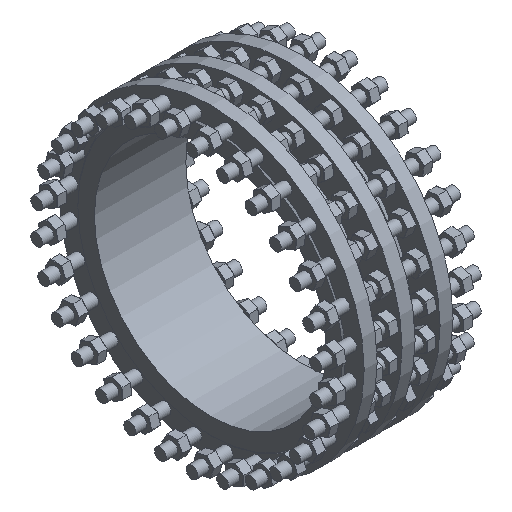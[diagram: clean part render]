
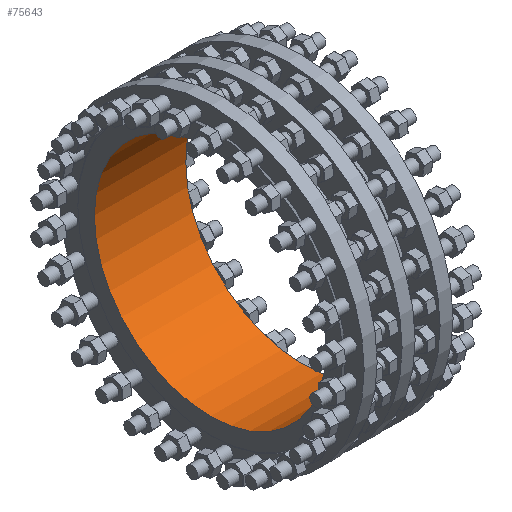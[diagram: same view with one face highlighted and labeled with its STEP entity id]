
A CAD part, isometric view. The second image highlights one B-rep face of the part: STEP entity #75643.
In plain terms, the highlighted cylindrical face has radius 450 mm (diameter 900 mm), a full revolution.
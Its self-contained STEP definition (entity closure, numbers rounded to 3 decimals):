
#364 = DIRECTION ( 'NONE',  ( -1., 0., 0. ) ) ;
#5213 = DIRECTION ( 'NONE',  ( 0., 0., 1. ) ) ;
#5622 = CARTESIAN_POINT ( 'NONE',  ( 0., 0., 0. ) ) ;
#11868 = ORIENTED_EDGE ( 'NONE', *, *, #37431, .T. ) ;
#12974 = CARTESIAN_POINT ( 'NONE',  ( 639., 0., 0. ) ) ;
#13055 = CIRCLE ( 'NONE', #58166, 450. ) ;
#17691 = DIRECTION ( 'NONE',  ( 0., 0., 1. ) ) ;
#23004 = EDGE_LOOP ( 'NONE', ( #11868 ) ) ;
#26315 = FACE_OUTER_BOUND ( 'NONE', #40065, .T. ) ;
#26655 = CARTESIAN_POINT ( 'NONE',  ( 0., 0., 450. ) ) ;
#31956 = DIRECTION ( 'NONE',  ( -1., 0., 0. ) ) ;
#37431 = EDGE_CURVE ( 'NONE', #56920, #56920, #13055, .T. ) ;
#37790 = ORIENTED_EDGE ( 'NONE', *, *, #66085, .F. ) ;
#40065 = EDGE_LOOP ( 'NONE', ( #37790 ) ) ;
#41656 = VERTEX_POINT ( 'NONE', #71575 ) ;
#44072 = CYLINDRICAL_SURFACE ( 'NONE', #78937, 450. ) ;
#50525 = FACE_OUTER_BOUND ( 'NONE', #23004, .T. ) ;
#50920 = DIRECTION ( 'NONE',  ( 0., 0., 1. ) ) ;
#56920 = VERTEX_POINT ( 'NONE', #26655 ) ;
#58166 = AXIS2_PLACEMENT_3D ( 'NONE', #5622, #364, #5213 ) ;
#59666 = DIRECTION ( 'NONE',  ( -1., 0., 0. ) ) ;
#60061 = CARTESIAN_POINT ( 'NONE',  ( 355., 0., 0. ) ) ;
#61034 = AXIS2_PLACEMENT_3D ( 'NONE', #60061, #59666, #17691 ) ;
#64909 = CIRCLE ( 'NONE', #61034, 450. ) ;
#66085 = EDGE_CURVE ( 'NONE', #41656, #41656, #64909, .T. ) ;
#71575 = CARTESIAN_POINT ( 'NONE',  ( 355., 0., 450. ) ) ;
#75643 = ADVANCED_FACE ( 'NONE', ( #50525, #26315 ), #44072, .F. ) ;
#78937 = AXIS2_PLACEMENT_3D ( 'NONE', #12974, #31956, #50920 ) ;
